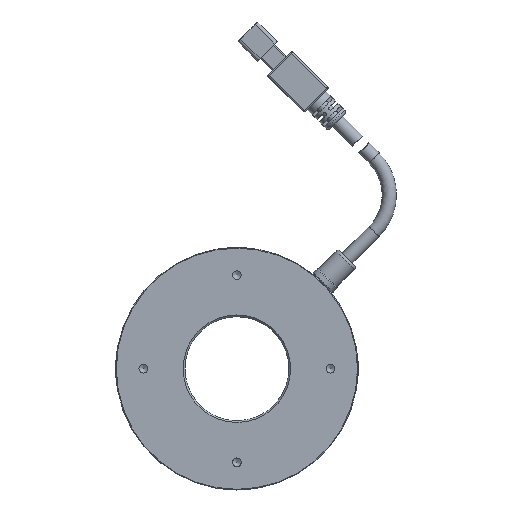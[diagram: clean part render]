
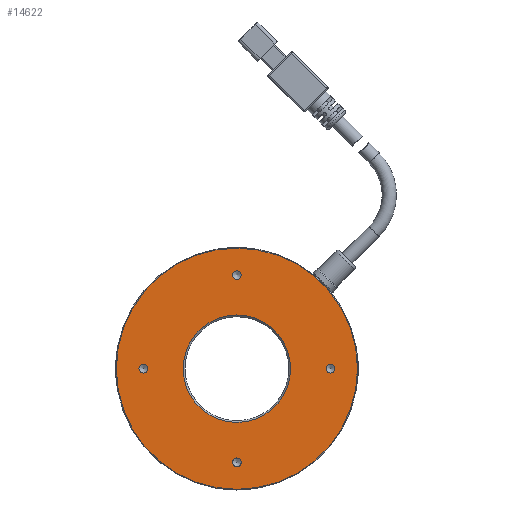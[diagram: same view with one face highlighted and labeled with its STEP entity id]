
A CAD part, front view. The second image highlights one B-rep face of the part: STEP entity #14622.
In plain terms, the highlighted planar face has unit normal (0, -1, 0).
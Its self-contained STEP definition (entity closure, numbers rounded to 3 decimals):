
#289 = FACE_BOUND ( 'NONE', #6595, .T. ) ;
#1316 = DIRECTION ( 'NONE',  ( 0., -1., 0. ) ) ;
#1619 = CIRCLE ( 'NONE', #12754, 1.25 ) ;
#2021 = CARTESIAN_POINT ( 'NONE',  ( 0., 0., 27. ) ) ;
#2152 = DIRECTION ( 'NONE',  ( 0., 0., 1. ) ) ;
#2155 = DIRECTION ( 'NONE',  ( 0., -1., 0. ) ) ;
#2582 = EDGE_CURVE ( 'NONE', #11335, #11335, #6038, .T. ) ;
#2865 = FACE_BOUND ( 'NONE', #13799, .T. ) ;
#3462 = FACE_BOUND ( 'NONE', #3514, .T. ) ;
#3514 = EDGE_LOOP ( 'NONE', ( #5492 ) ) ;
#3590 = DIRECTION ( 'NONE',  ( 0., 1., 0. ) ) ;
#3780 = CIRCLE ( 'NONE', #9126, 15.5 ) ;
#4073 = EDGE_CURVE ( 'NONE', #5307, #5307, #8088, .T. ) ;
#4287 = PLANE ( 'NONE',  #10170 ) ;
#4776 = CARTESIAN_POINT ( 'NONE',  ( 0., 0., 0. ) ) ;
#4874 = DIRECTION ( 'NONE',  ( 0., 0., 1. ) ) ;
#4987 = ORIENTED_EDGE ( 'NONE', *, *, #8623, .F. ) ;
#5033 = EDGE_CURVE ( 'NONE', #7934, #7934, #6856, .T. ) ;
#5156 = EDGE_CURVE ( 'NONE', #7342, #7342, #1619, .T. ) ;
#5207 = CARTESIAN_POINT ( 'NONE',  ( 0., 0., -28.25 ) ) ;
#5307 = VERTEX_POINT ( 'NONE', #10316 ) ;
#5315 = CARTESIAN_POINT ( 'NONE',  ( 27., 0., -1.25 ) ) ;
#5492 = ORIENTED_EDGE ( 'NONE', *, *, #5033, .F. ) ;
#5500 = CARTESIAN_POINT ( 'NONE',  ( 0., 0., 15.5 ) ) ;
#6038 = CIRCLE ( 'NONE', #13844, 34.8 ) ;
#6595 = EDGE_LOOP ( 'NONE', ( #6861 ) ) ;
#6856 = CIRCLE ( 'NONE', #8453, 1.25 ) ;
#6861 = ORIENTED_EDGE ( 'NONE', *, *, #15558, .T. ) ;
#6883 = ORIENTED_EDGE ( 'NONE', *, *, #4073, .F. ) ;
#6889 = CARTESIAN_POINT ( 'NONE',  ( -35., 0., 0. ) ) ;
#7342 = VERTEX_POINT ( 'NONE', #5315 ) ;
#7438 = AXIS2_PLACEMENT_3D ( 'NONE', #2021, #13587, #12156 ) ;
#7509 = EDGE_LOOP ( 'NONE', ( #16167 ) ) ;
#7728 = DIRECTION ( 'NONE',  ( 0., 0., -1. ) ) ;
#7932 = DIRECTION ( 'NONE',  ( 0., 0., -1. ) ) ;
#7934 = VERTEX_POINT ( 'NONE', #14249 ) ;
#8088 = CIRCLE ( 'NONE', #7438, 1.25 ) ;
#8453 = AXIS2_PLACEMENT_3D ( 'NONE', #11252, #2155, #14827 ) ;
#8623 = EDGE_CURVE ( 'NONE', #12972, #12972, #8790, .T. ) ;
#8790 = CIRCLE ( 'NONE', #13322, 1.25 ) ;
#9126 = AXIS2_PLACEMENT_3D ( 'NONE', #11295, #3590, #4874 ) ;
#9139 = CARTESIAN_POINT ( 'NONE',  ( 0., 0., 34.8 ) ) ;
#9838 = DIRECTION ( 'NONE',  ( 0., -1., 0. ) ) ;
#10104 = FACE_BOUND ( 'NONE', #7509, .T. ) ;
#10170 = AXIS2_PLACEMENT_3D ( 'NONE', #6889, #12068, #14573 ) ;
#10247 = EDGE_LOOP ( 'NONE', ( #13390 ) ) ;
#10316 = CARTESIAN_POINT ( 'NONE',  ( 0., 0., 25.75 ) ) ;
#11252 = CARTESIAN_POINT ( 'NONE',  ( -27., 0., 0. ) ) ;
#11295 = CARTESIAN_POINT ( 'NONE',  ( 0., 0., 0. ) ) ;
#11335 = VERTEX_POINT ( 'NONE', #9139 ) ;
#11630 = DIRECTION ( 'NONE',  ( 0., -1., 0. ) ) ;
#11731 = VERTEX_POINT ( 'NONE', #5500 ) ;
#12068 = DIRECTION ( 'NONE',  ( 0., 1., 0. ) ) ;
#12156 = DIRECTION ( 'NONE',  ( 0., 0., -1. ) ) ;
#12635 = EDGE_LOOP ( 'NONE', ( #4987 ) ) ;
#12754 = AXIS2_PLACEMENT_3D ( 'NONE', #12836, #1316, #7728 ) ;
#12836 = CARTESIAN_POINT ( 'NONE',  ( 27., 0., 0. ) ) ;
#12945 = FACE_OUTER_BOUND ( 'NONE', #10247, .T. ) ;
#12972 = VERTEX_POINT ( 'NONE', #5207 ) ;
#13322 = AXIS2_PLACEMENT_3D ( 'NONE', #14269, #11630, #7932 ) ;
#13390 = ORIENTED_EDGE ( 'NONE', *, *, #2582, .T. ) ;
#13587 = DIRECTION ( 'NONE',  ( 0., -1., 0. ) ) ;
#13799 = EDGE_LOOP ( 'NONE', ( #6883 ) ) ;
#13844 = AXIS2_PLACEMENT_3D ( 'NONE', #4776, #9838, #2152 ) ;
#14249 = CARTESIAN_POINT ( 'NONE',  ( -27., 0., -1.25 ) ) ;
#14269 = CARTESIAN_POINT ( 'NONE',  ( 0., 0., -27. ) ) ;
#14573 = DIRECTION ( 'NONE',  ( 0., 0., 1. ) ) ;
#14622 = ADVANCED_FACE ( 'NONE', ( #289, #12945, #2865, #10104, #16148, #3462 ), #4287, .F. ) ;
#14827 = DIRECTION ( 'NONE',  ( 0., 0., -1. ) ) ;
#15558 = EDGE_CURVE ( 'NONE', #11731, #11731, #3780, .T. ) ;
#16148 = FACE_BOUND ( 'NONE', #12635, .T. ) ;
#16167 = ORIENTED_EDGE ( 'NONE', *, *, #5156, .F. ) ;
